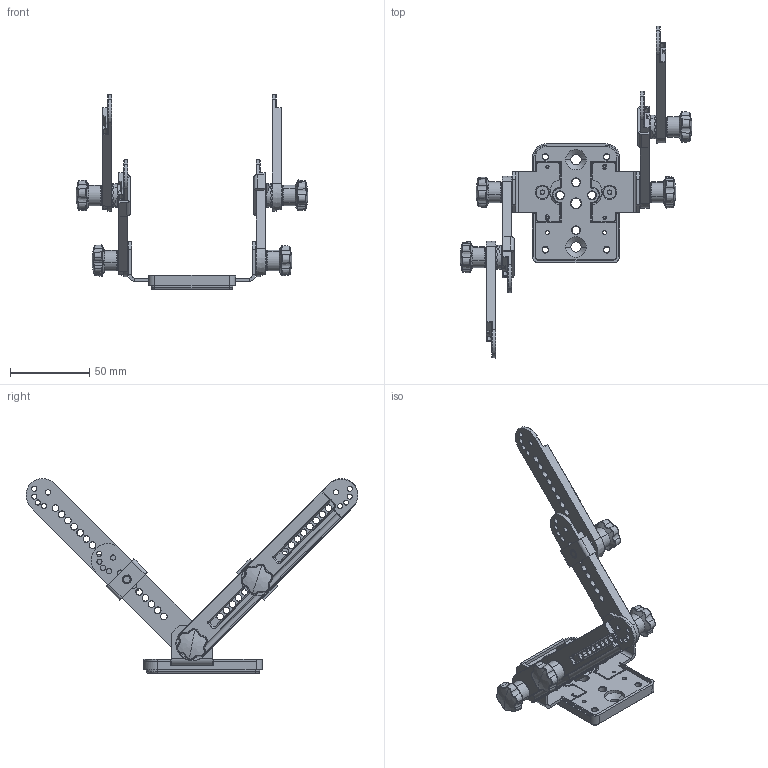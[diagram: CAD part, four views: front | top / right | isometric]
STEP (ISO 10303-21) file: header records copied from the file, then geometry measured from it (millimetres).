
FILE_DESCRIPTION (( 'STEP AP214' ), '1' );
FILE_NAME ('Assy, Lighting Bracket, IS7000.STEP', '2014-10-13T18:38:14', ( 'bob' ), ( 'Microsoft' ), 'SwSTEP 2.0', 'SolidWorks 2014', '' );
FILE_SCHEMA (( 'AUTOMOTIVE_DESIGN' ));
Length unit declared in the file: millimetre
Products named in the file (9): Bracket, w-Stub, Light Bracket, Rogue; Knob, 6 Lob, jwwinco_6113005; BRACKET, TOP; Detent, Light Bracket, Rogue; Bar, Lighting Bracket, Rogue; Bracket, Mounting, w-Lighting Bracket, Rogue; Assy, Lighting Bracket, IS7000; Screw, M4x6, SHFH, Black_91294A188; B18.21.2M-External Tooth Lock Washers_AM4_B18.21.2M-External Tooth Lock Washers_AM4
Assembly tree (21 placements, depth 2):
  Assy, Lighting Bracket, IS7000
    Bracket, Mounting, w-Lighting Bracket, Rogue
    Bar, Lighting Bracket, Rogue  x4
    Detent, Light Bracket, Rogue  x2
    BRACKET, TOP  x2
    Knob, 6 Lob, jwwinco_6113005  x4
    Bracket, w-Stub, Light Bracket, Rogue  x2
    B18.21.2M-External Tooth Lock Washers_AM4_B18.21.2M-External Tooth Lock Washers_AM4  x4
    Screw, M4x6, SHFH, Black_91294A188  x2
Bounding box: 146 x 209.01 x 122.66 mm (x, y, z)
Volume: 71616.4 mm3; surface area: 53071.1 mm2
Topology: 29 solids, 29 shells, 4677 faces, 10999 edges, 6391 vertices
Faces by surface type: cylinder 1166, bspline 1150, plane 909, cone 540, sphere 488, torus 424
Entity records: 77158 total; most frequent: CARTESIAN_POINT 26341, ORIENTED_EDGE 9756, DIRECTION 9226, EDGE_CURVE 4878, AXIS2_PLACEMENT_3D 3821, VERTEX_POINT 2851, EDGE_LOOP 2203, CIRCLE 2170
